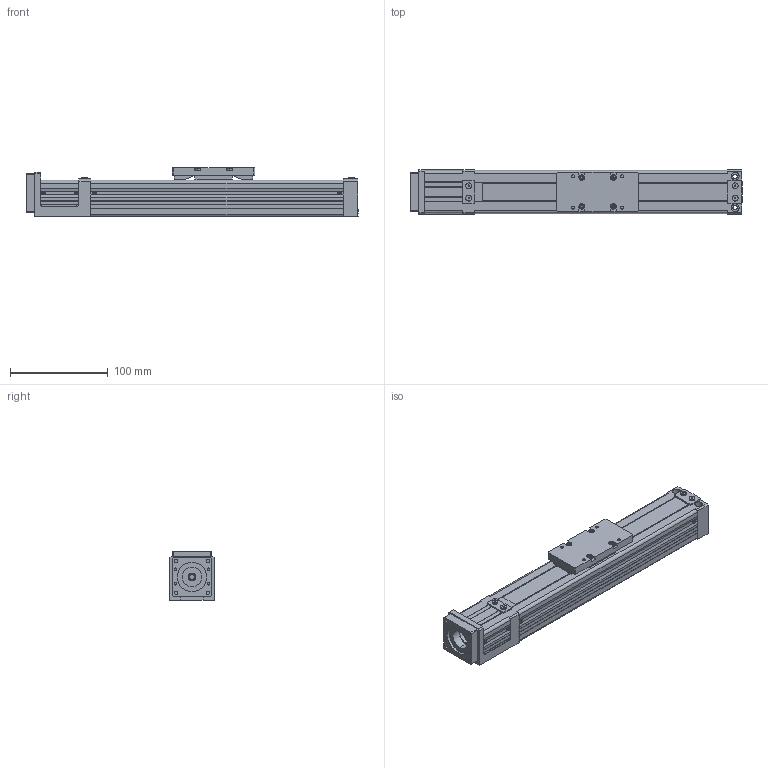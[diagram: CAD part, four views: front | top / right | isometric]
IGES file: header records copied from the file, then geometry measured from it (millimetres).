
Global section: file name: No Iges File Name specified; native system: AutoDesk Inventor R10; preprocessor: AutoDesk Inventor Iges Exporter R10; author: No Author specified; organization: No Organization specified; date: 20110617.143415; units: millimetre
Bounding box: 339 x 45 x 50 mm (x, y, z)
Surface area: 142484.6 mm2 (no closed solid volume)
Topology: 0 solids, 0 shells, 1095 faces, 6666 edges, 6626 vertices
Faces by surface type: bspline 1095
